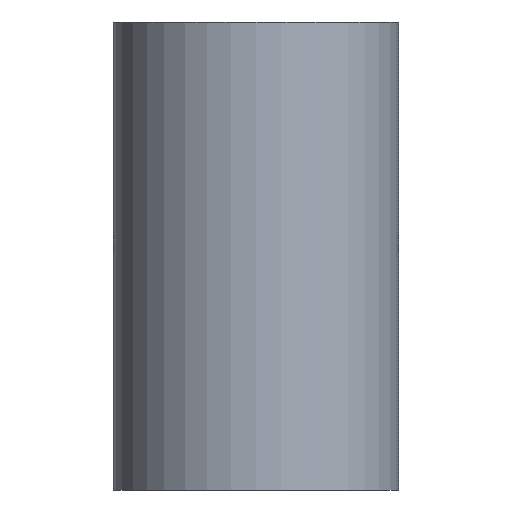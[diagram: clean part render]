
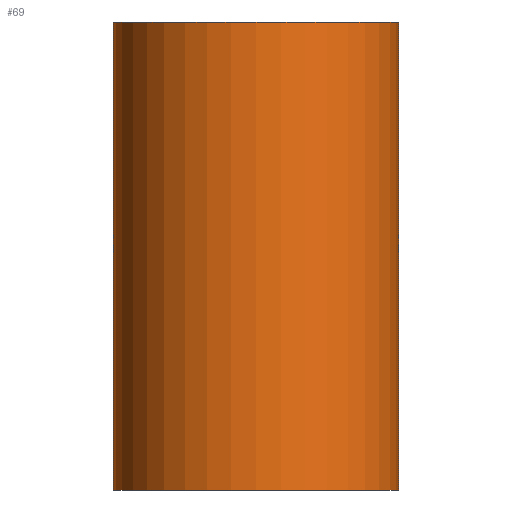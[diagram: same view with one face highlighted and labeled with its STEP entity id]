
A CAD part, front view. The second image highlights one B-rep face of the part: STEP entity #69.
In plain terms, the highlighted cylindrical face has radius 13.4 mm (diameter 26.8 mm), a partial arc.
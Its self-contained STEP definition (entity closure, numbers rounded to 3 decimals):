
#2 = CIRCLE ( 'NONE', #192, 13.4 ) ;
#3 = CARTESIAN_POINT ( 'NONE',  ( -13.4, 0., 44. ) ) ;
#23 = CARTESIAN_POINT ( 'NONE',  ( -13.4, 0., 44. ) ) ;
#27 = CARTESIAN_POINT ( 'NONE',  ( 13.4, 0., 44. ) ) ;
#28 = DIRECTION ( 'NONE',  ( -1., 0., 0. ) ) ;
#34 = DIRECTION ( 'NONE',  ( 0., 0., -1. ) ) ;
#36 = VERTEX_POINT ( 'NONE', #188 ) ;
#39 = EDGE_CURVE ( 'NONE', #129, #36, #58, .T. ) ;
#40 = CARTESIAN_POINT ( 'NONE',  ( 0., 0., 44. ) ) ;
#54 = DIRECTION ( 'NONE',  ( 0., 0., -1. ) ) ;
#58 = LINE ( 'NONE', #3, #204 ) ;
#62 = CARTESIAN_POINT ( 'NONE',  ( 0., 0., 44. ) ) ;
#68 = EDGE_CURVE ( 'NONE', #123, #200, #171, .T. ) ;
#69 = ADVANCED_FACE ( 'NONE', ( #90 ), #196, .T. ) ;
#71 = ORIENTED_EDGE ( 'NONE', *, *, #68, .F. ) ;
#87 = AXIS2_PLACEMENT_3D ( 'NONE', #40, #208, #28 ) ;
#90 = FACE_OUTER_BOUND ( 'NONE', #203, .T. ) ;
#97 = CARTESIAN_POINT ( 'NONE',  ( 0., 0., 0. ) ) ;
#98 = EDGE_CURVE ( 'NONE', #129, #123, #2, .T. ) ;
#111 = ORIENTED_EDGE ( 'NONE', *, *, #120, .T. ) ;
#120 = EDGE_CURVE ( 'NONE', #36, #200, #125, .T. ) ;
#123 = VERTEX_POINT ( 'NONE', #27 ) ;
#125 = CIRCLE ( 'NONE', #184, 13.4 ) ;
#129 = VERTEX_POINT ( 'NONE', #23 ) ;
#136 = CARTESIAN_POINT ( 'NONE',  ( 13.4, 0., 0. ) ) ;
#137 = DIRECTION ( 'NONE',  ( 0., 0., 1. ) ) ;
#144 = CARTESIAN_POINT ( 'NONE',  ( 13.4, 0., 44. ) ) ;
#148 = DIRECTION ( 'NONE',  ( 1., 0., 0. ) ) ;
#151 = DIRECTION ( 'NONE',  ( 0., 0., 1. ) ) ;
#160 = ORIENTED_EDGE ( 'NONE', *, *, #98, .F. ) ;
#171 = LINE ( 'NONE', #144, #210 ) ;
#182 = ORIENTED_EDGE ( 'NONE', *, *, #39, .T. ) ;
#184 = AXIS2_PLACEMENT_3D ( 'NONE', #97, #137, #148 ) ;
#188 = CARTESIAN_POINT ( 'NONE',  ( -13.4, 0., 0. ) ) ;
#192 = AXIS2_PLACEMENT_3D ( 'NONE', #62, #151, #211 ) ;
#196 = CYLINDRICAL_SURFACE ( 'NONE', #87, 13.4 ) ;
#200 = VERTEX_POINT ( 'NONE', #136 ) ;
#203 = EDGE_LOOP ( 'NONE', ( #71, #160, #182, #111 ) ) ;
#204 = VECTOR ( 'NONE', #54, 1000. ) ;
#208 = DIRECTION ( 'NONE',  ( 0., 0., -1. ) ) ;
#210 = VECTOR ( 'NONE', #34, 1000. ) ;
#211 = DIRECTION ( 'NONE',  ( 1., 0., 0. ) ) ;
